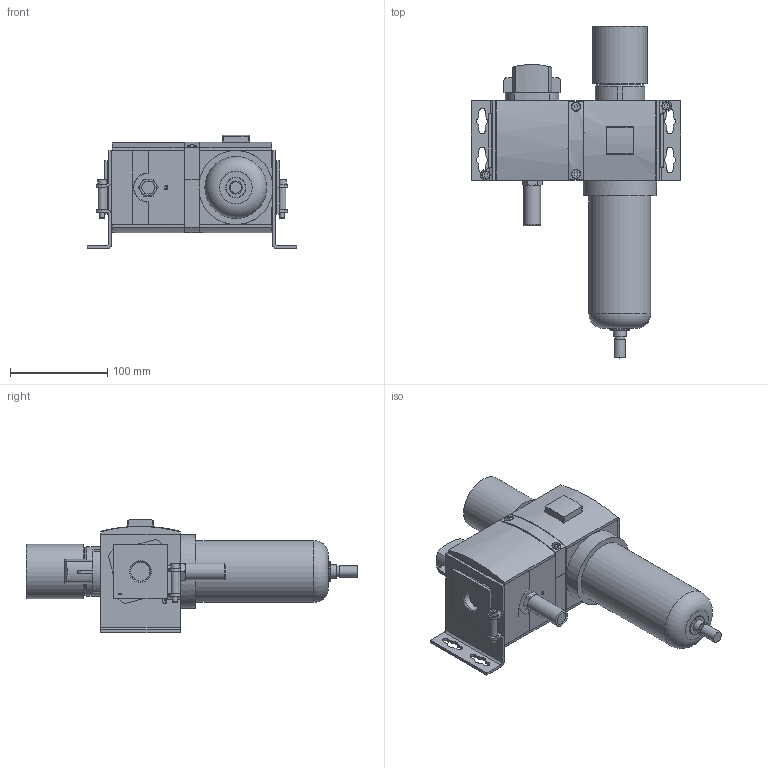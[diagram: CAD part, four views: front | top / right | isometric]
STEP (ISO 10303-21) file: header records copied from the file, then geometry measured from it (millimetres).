
FILE_DESCRIPTION( ( 'STEP AP214' ), '1' );
FILE_NAME( 'p:/temp/worker_150/temp/exporttempdir_5192_778_t73bB/format_0/12082020-150205_gen_14906.stp', '2020-02-12T14:08:06', ( '' ), ( '' ), ' ', 'PARTsolutions', ' ' );
FILE_SCHEMA( ( 'AUTOMOTIVE_DESIGN { 1 0 10303 214 1 1 1 1 }' ) );
Length unit declared in the file: millimetre
Products named in the file (16): 12082020-150205_gen_14906; _440562-004-004-F(L); _439489-001-0; _437742 KNOB-100_653; _653-M3MN; _440561-004-004-F(L); _G653ASLA0A00A00_LS; _439488-010-F(L); _653-438047-009; _439489-002-H; _503493-001; _510722-001-STANDARD_653; _507439-006-P; _653-501862-002; _8653ASLB0L00A00_LS; _8653ASLB0L00A00_RS
Assembly tree (17 placements, depth 2):
  12082020-150205_gen_14906
    _440562-004-004-F(L)
    _439489-001-0  x3
    _437742 KNOB-100_653
    _653-M3MN
    _440561-004-004-F(L)
    _G653ASLA0A00A00_LS
    _439488-010-F(L)
    _653-438047-009
    _439489-002-H
    _503493-001
    _510722-001-STANDARD_653
    _507439-006-P
    _653-501862-002
    _8653ASLB0L00A00_LS
    _8653ASLB0L00A00_RS
Bounding box: 214.98 x 340.9 x 116.41 mm (x, y, z)
Volume: 1997370 mm3; surface area: 301366.7 mm2
Topology: 17 solids, 17 shells, 1028 faces, 2529 edges, 1621 vertices
Faces by surface type: plane 650, cylinder 282, cone 69, torus 23, sphere 4
Full cylindrical faces by diameter (mm): 2.8 x2, 5 x8, 5.85 x4, 6.3 x4, 8 x2, 8.5 x4, 10 x4, 10.4 x1, 10.5 x1, 10.8 x4, 11.671 x1, 12 x4, 12.309 x1, 13.5 x1, 15.1 x1, 16.105 x1, 17.3 x1, 20 x1, 21.6 x1, 29.5 x1, 33.5 x1, 43 x1, 51 x1, 55.99 x1, 63.5 x1
Entity records: 37924 total; most frequent: CARTESIAN_POINT 5524, DIRECTION 5111, ORIENTED_EDGE 4720, EDGE_CURVE 2360, AXIS2_PLACEMENT_3D 1777, VERTEX_POINT 1587, LINE 1557, VECTOR 1557
